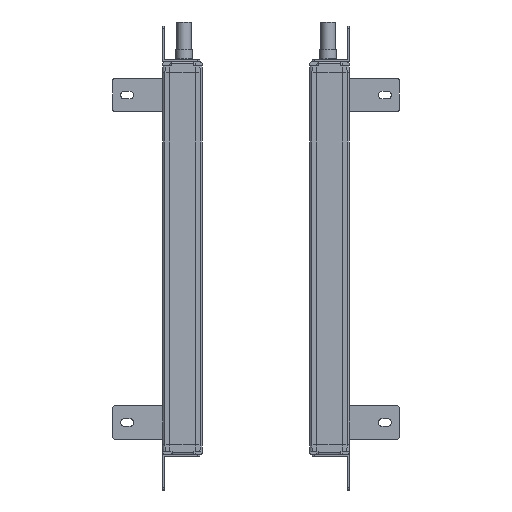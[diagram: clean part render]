
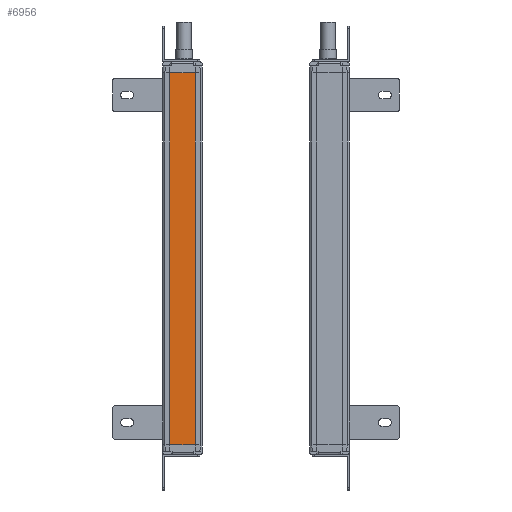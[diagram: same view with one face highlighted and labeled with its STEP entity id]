
A CAD part, left-side view. The second image highlights one B-rep face of the part: STEP entity #6956.
In plain terms, the highlighted planar face has unit normal (-1, 0, 0).
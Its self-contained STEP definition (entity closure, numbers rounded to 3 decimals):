
#953=FACE_OUTER_BOUND('',#9034,.T.);
#2188=LINE('',#33710,#4326);
#2290=LINE('',#34050,#4428);
#2291=LINE('',#34052,#4429);
#2292=LINE('',#34054,#4430);
#4326=VECTOR('',#26897,1.);
#4428=VECTOR('',#27185,1.);
#4429=VECTOR('',#27188,1.);
#4430=VECTOR('',#27189,1.);
#6178=PLANE('',#23723);
#6956=ADVANCED_FACE('',(#953),#6178,.T.);
#9034=EDGE_LOOP('',(#11681,#11682,#11683,#11684));
#11681=ORIENTED_EDGE('',*,*,#19828,.F.);
#11682=ORIENTED_EDGE('',*,*,#19829,.T.);
#11683=ORIENTED_EDGE('',*,*,#19830,.T.);
#11684=ORIENTED_EDGE('',*,*,#19658,.F.);
#17203=VERTEX_POINT('',#33709);
#17204=VERTEX_POINT('',#33711);
#17348=VERTEX_POINT('',#34049);
#17349=VERTEX_POINT('',#34053);
#19658=EDGE_CURVE('',#17203,#17204,#2188,.T.);
#19828=EDGE_CURVE('',#17348,#17203,#2290,.T.);
#19829=EDGE_CURVE('',#17348,#17349,#2291,.T.);
#19830=EDGE_CURVE('',#17349,#17204,#2292,.T.);
#23723=AXIS2_PLACEMENT_3D('',#34055,#27190,#27191);
#26897=DIRECTION('',(0.,-1.,0.));
#27185=DIRECTION('',(0.,0.,1.));
#27188=DIRECTION('',(0.,-1.,0.));
#27189=DIRECTION('',(0.,0.,1.));
#27190=DIRECTION('',(-1.,0.,0.));
#27191=DIRECTION('',(0.,-1.,0.));
#33709=CARTESIAN_POINT('',(233.846,104.141,31.645));
#33710=CARTESIAN_POINT('',(233.846,81.141,31.645));
#33711=CARTESIAN_POINT('',(233.846,81.141,31.645));
#34049=CARTESIAN_POINT('',(233.846,104.141,-303.355));
#34050=CARTESIAN_POINT('',(233.846,104.141,-155.355));
#34052=CARTESIAN_POINT('',(233.846,81.141,-303.355));
#34053=CARTESIAN_POINT('',(233.846,81.141,-303.355));
#34054=CARTESIAN_POINT('',(233.846,81.141,-155.355));
#34055=CARTESIAN_POINT('',(233.846,81.141,-50.355));
